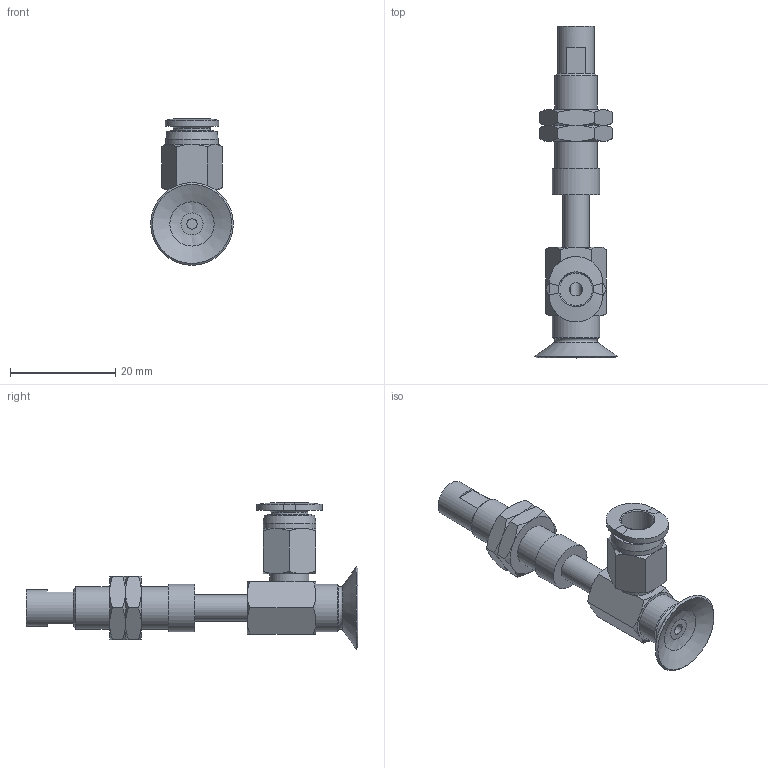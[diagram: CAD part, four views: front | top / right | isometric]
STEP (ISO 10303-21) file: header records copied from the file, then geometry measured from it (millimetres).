
FILE_DESCRIPTION(('STEP AP203'),'1');
FILE_NAME('-O.stp','2025-04-09T07:04:47',(' '),(' '),'Spatial InterOp 3D',' ',' ');
FILE_SCHEMA(('CONFIG_CONTROL_DESIGN'));
Length unit declared in the file: millimetre
Products named in the file (7): BNABPFYS-15A-10-※-O; CONNECTOR-15A-10; Nut-15A-10-s; NAPFTS-15A-10-FBODY; NAPFTS-15A-10-MBODY; BPFG-15A-※; PC-C_06-M5
Assembly tree (7 placements, depth 2):
  BNABPFYS-15A-10-※-O
    CONNECTOR-15A-10
    Nut-15A-10-s  x2
    NAPFTS-15A-10-FBODY
    NAPFTS-15A-10-MBODY
    BPFG-15A-※
    PC-C_06-M5
Bounding box: 15.7 x 63 x 27.83 mm (x, y, z)
Volume: 3614 mm3; surface area: 5502.4 mm2
Topology: 6 solids, 9 shells, 180 faces, 372 edges, 224 vertices
Faces by surface type: plane 68, cone 67, cylinder 26, torus 11, bspline 5, revolution 3
Full cylindrical faces by diameter (mm): 2 x2, 4 x4, 4.134 x2, 5 x4, 6 x2, 7 x2, 7.188 x2, 7.4 x1, 8 x1, 8.2 x1, 9 x2, 10 x1
Entity records: 4643 total; most frequent: CARTESIAN_POINT 1339, DIRECTION 615, ORIENTED_EDGE 522, AXIS2_PLACEMENT_3D 277, EDGE_CURVE 263, EDGE_LOOP 236, VERTEX_POINT 187, FACE_OUTER_BOUND 132
